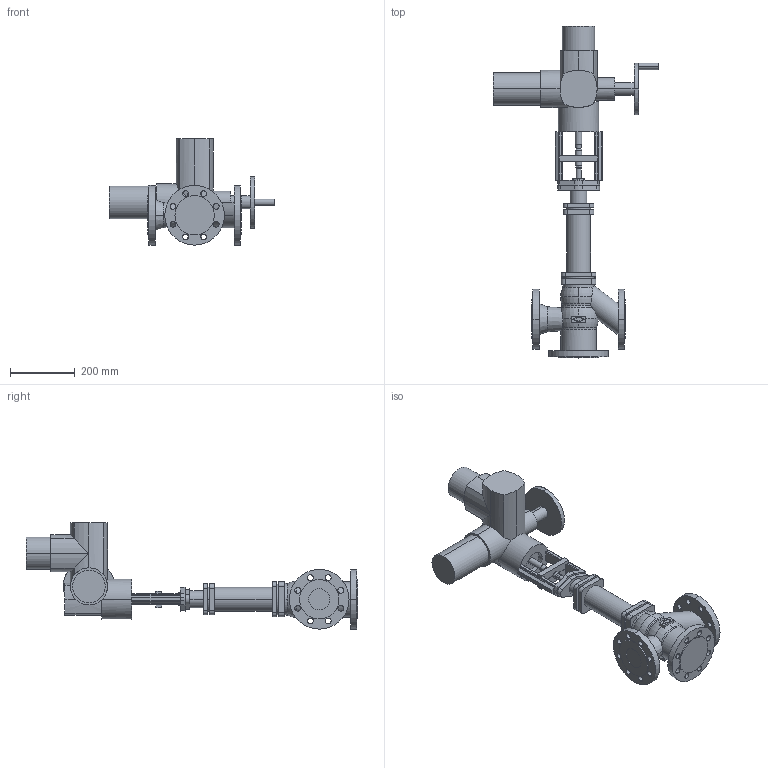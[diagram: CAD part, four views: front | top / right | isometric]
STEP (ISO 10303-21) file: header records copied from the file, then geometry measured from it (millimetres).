
FILE_DESCRIPTION(('OneSpaceDesigner STEP Export'),'2;1');
FILE_NAME('c000003204.stp','2007-01-25T11:58:00',(''),(''),'OneSpace Designer STEP processor for AP214 (Solid Model)','OneSpace Designer 14.00B 27-May-2006 (C) CoCreate Software GmbH','');
FILE_SCHEMA(('AUTOMOTIVE_DESIGN { 1 0 10303 214 1 1 1 1 }'));
Length unit declared in the file: millimetre
Products named in the file (2): 1; 2
Bounding box: 514 x 1029 x 329.5 mm (x, y, z)
Volume: 14478572.5 mm3; surface area: 871456.3 mm2
Topology: 2 solids, 2 shells, 372 faces, 966 edges, 620 vertices
Faces by surface type: cylinder 184, plane 162, torus 18, cone 8
Entity records: 10783 total; most frequent: CARTESIAN_POINT 2238, ORIENTED_EDGE 1932, DIRECTION 1590, EDGE_CURVE 966, VERTEX_POINT 620, AXIS2_PLACEMENT_3D 550, VECTOR 490, LINE 490
